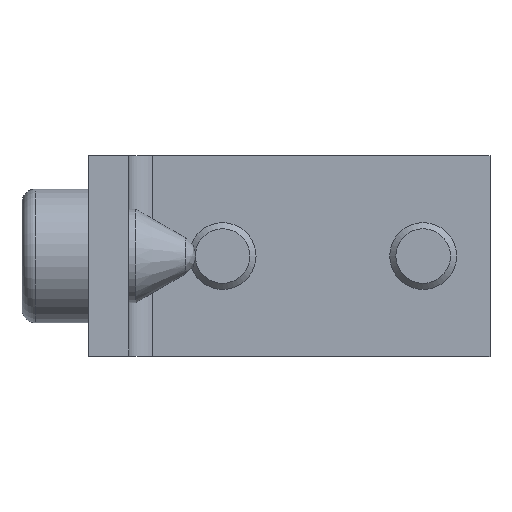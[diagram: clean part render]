
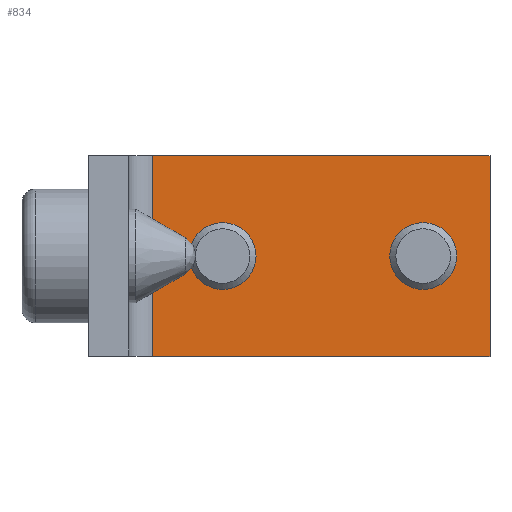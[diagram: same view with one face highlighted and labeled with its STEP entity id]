
A CAD part, top view. The second image highlights one B-rep face of the part: STEP entity #834.
In plain terms, the highlighted planar face has unit normal (0, 0, 1).
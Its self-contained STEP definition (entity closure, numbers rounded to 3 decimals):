
#78=LINE('',#1298,#126);
#81=LINE('',#1304,#129);
#86=LINE('',#1318,#134);
#87=LINE('',#1319,#135);
#126=VECTOR('',#1029,30.);
#129=VECTOR('',#1036,50.5);
#134=VECTOR('',#1049,50.5);
#135=VECTOR('',#1050,30.);
#173=PLANE('',#907);
#205=FACE_BOUND('',#306,.T.);
#206=FACE_BOUND('',#307,.T.);
#242=FACE_OUTER_BOUND('',#305,.T.);
#305=EDGE_LOOP('',(#635,#636,#637,#638));
#306=EDGE_LOOP('',(#639));
#307=EDGE_LOOP('',(#640));
#396=CIRCLE('',#908,4.188);
#397=CIRCLE('',#909,4.188);
#433=VERTEX_POINT('',#1280);
#436=VERTEX_POINT('',#1288);
#440=VERTEX_POINT('',#1303);
#445=VERTEX_POINT('',#1317);
#446=VERTEX_POINT('',#1320);
#447=VERTEX_POINT('',#1322);
#515=EDGE_CURVE('',#436,#433,#78,.T.);
#518=EDGE_CURVE('',#436,#440,#81,.T.);
#525=EDGE_CURVE('',#445,#433,#86,.T.);
#526=EDGE_CURVE('',#440,#445,#87,.T.);
#527=EDGE_CURVE('',#446,#446,#396,.T.);
#528=EDGE_CURVE('',#447,#447,#397,.T.);
#635=ORIENTED_EDGE('',*,*,#515,.T.);
#636=ORIENTED_EDGE('',*,*,#525,.F.);
#637=ORIENTED_EDGE('',*,*,#526,.F.);
#638=ORIENTED_EDGE('',*,*,#518,.F.);
#639=ORIENTED_EDGE('',*,*,#527,.T.);
#640=ORIENTED_EDGE('',*,*,#528,.T.);
#834=ADVANCED_FACE('',(#242,#205,#206),#173,.T.);
#907=AXIS2_PLACEMENT_3D('',#1316,#1047,#1048);
#908=AXIS2_PLACEMENT_3D('',#1321,#1051,#1052);
#909=AXIS2_PLACEMENT_3D('',#1323,#1053,#1054);
#1029=DIRECTION('',(0.,-1.,0.));
#1036=DIRECTION('',(1.,0.,0.));
#1047=DIRECTION('center_axis',(0.,0.,1.));
#1048=DIRECTION('ref_axis',(1.,0.,0.));
#1049=DIRECTION('',(-1.,0.,0.));
#1050=DIRECTION('',(0.,-1.,0.));
#1051=DIRECTION('center_axis',(0.,0.,-1.));
#1052=DIRECTION('ref_axis',(1.,0.,0.));
#1053=DIRECTION('center_axis',(0.,0.,-1.));
#1054=DIRECTION('ref_axis',(1.,0.,0.));
#1280=CARTESIAN_POINT('',(-8.,-15.,6.));
#1288=CARTESIAN_POINT('',(-8.,15.,6.));
#1298=CARTESIAN_POINT('',(-8.,7.5,6.));
#1303=CARTESIAN_POINT('',(42.5,15.,6.));
#1304=CARTESIAN_POINT('',(-42.5,15.,6.));
#1316=CARTESIAN_POINT('Origin',(0.,0.,
6.));
#1317=CARTESIAN_POINT('',(42.5,-15.,6.));
#1318=CARTESIAN_POINT('',(42.5,-15.,6.));
#1319=CARTESIAN_POINT('',(42.5,15.,6.));
#1320=CARTESIAN_POINT('',(36.688,0.,6.));
#1321=CARTESIAN_POINT('Origin',(32.5,0.,6.));
#1322=CARTESIAN_POINT('',(6.688,0.,6.));
#1323=CARTESIAN_POINT('Origin',(2.5,0.,6.));
